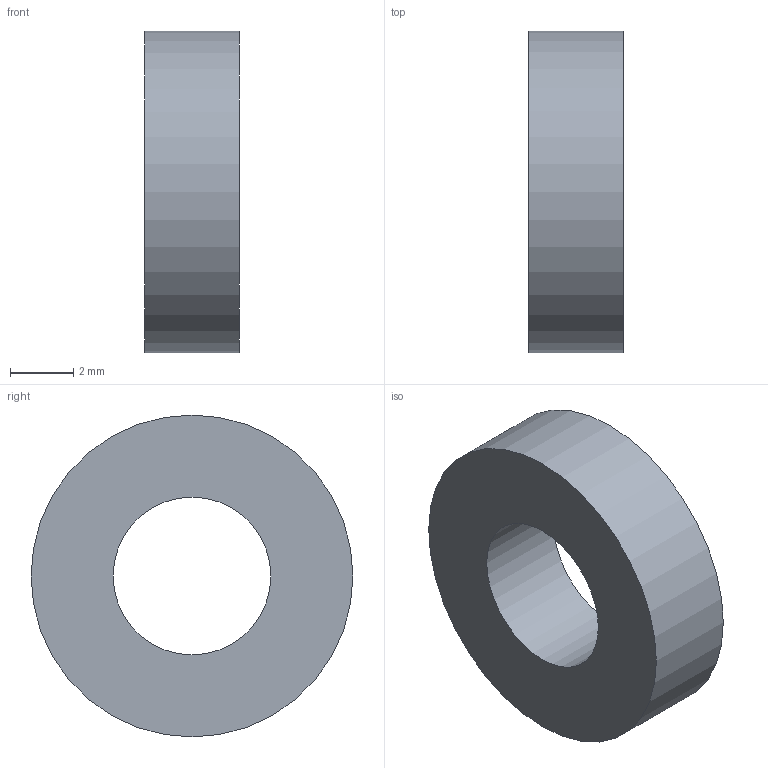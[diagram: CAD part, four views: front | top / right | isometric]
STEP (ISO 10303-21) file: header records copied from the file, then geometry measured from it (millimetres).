
FILE_DESCRIPTION(/* description */ ('STEP AP242 Edition 2','CAx-IF Rec.Pracs.---Representation and Presentation of Product Manufacturing Information (PMI)---4.0---2014-10-13','CAx-IF Rec.Pracs.---3D Tessellated Geometry---0.4---2014-09-14','2;1','CAx-IF Rec.Pracs.---User Defined Attributes---1.5---2016-08-15'),/* implementation_level */ '2;1');
FILE_NAME(/* name */ 'main - Part 11 - top left endstop',/* time_stamp */ '2026-11-08T20:03:44Z',/* author */ (''),/* organization */ (''),/* preprocessor_version */ 'ST-DEVELOPER v20',/* originating_system */ 'ONSHAPE BY PTC INC, 1.223',/* authorisation */ ' ');
FILE_SCHEMA (('AP242_MANAGED_MODEL_BASED_3D_ENGINEERING_MIM_LF { 1 0 10303 442 3 1 4 }'));
Length unit declared in the file: metre
Products named in the file (1): Part 11 - top left endstop
Bounding box: 3 x 10.2 x 10.2 mm (x, y, z)
Volume: 186.2 mm3; surface area: 267.4 mm2
Topology: 1 solids, 1 shells, 4 faces, 6 edges, 4 vertices
Faces by surface type: cylinder 2, plane 2
Full cylindrical faces by diameter (mm): 5 x1, 10.2 x1
Entity records: 139 total; most frequent: DIRECTION 18, CARTESIAN_POINT 13, AXIS2_PLACEMENT_3D 9, ORIENTED_EDGE 8, EDGE_LOOP 8, FACE_BOUND 8, PRESENTATION_STYLE_ASSIGNMENT 5, SURFACE_STYLE_USAGE 5
